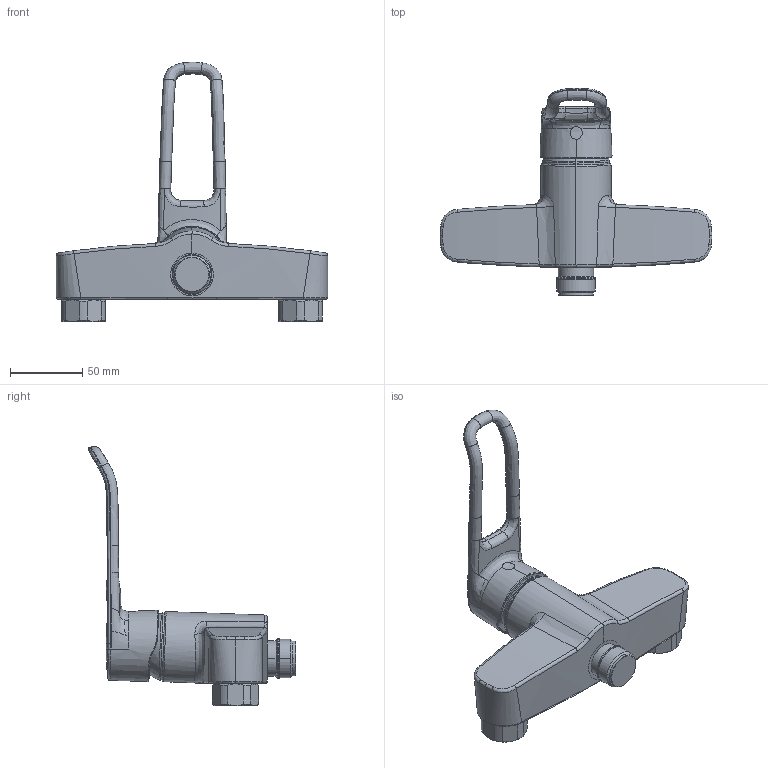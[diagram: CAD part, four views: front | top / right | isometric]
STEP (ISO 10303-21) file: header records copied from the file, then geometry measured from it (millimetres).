
FILE_DESCRIPTION (( 'STEP AP203' ), '1' );
FILE_NAME ('5620(2024).STEP', '2023-10-26T11:22:30', ( '' ), ( '' ), 'SwSTEP 2.0', 'SolidWorks 2016', '' );
FILE_SCHEMA (( 'CONFIG_CONTROL_DESIGN' ));
Length unit declared in the file: millimetre
Products named in the file (1): 5620(2024)
Bounding box: 187.5 x 143.16 x 179.03 mm (x, y, z)
Volume: 450116.8 mm3; surface area: 56793.6 mm2
Topology: 1 solids, 1 shells, 226 faces, 536 edges, 326 vertices
Faces by surface type: bspline 125, cone 36, cylinder 34, plane 29, sphere 2
Entity records: 22505 total; most frequent: CARTESIAN_POINT 18245, ORIENTED_EDGE 1072, DIRECTION 549, EDGE_CURVE 536, VERTEX_POINT 326, B_SPLINE_CURVE_WITH_KNOTS 302, EDGE_LOOP 242, AXIS2_PLACEMENT_3D 235
